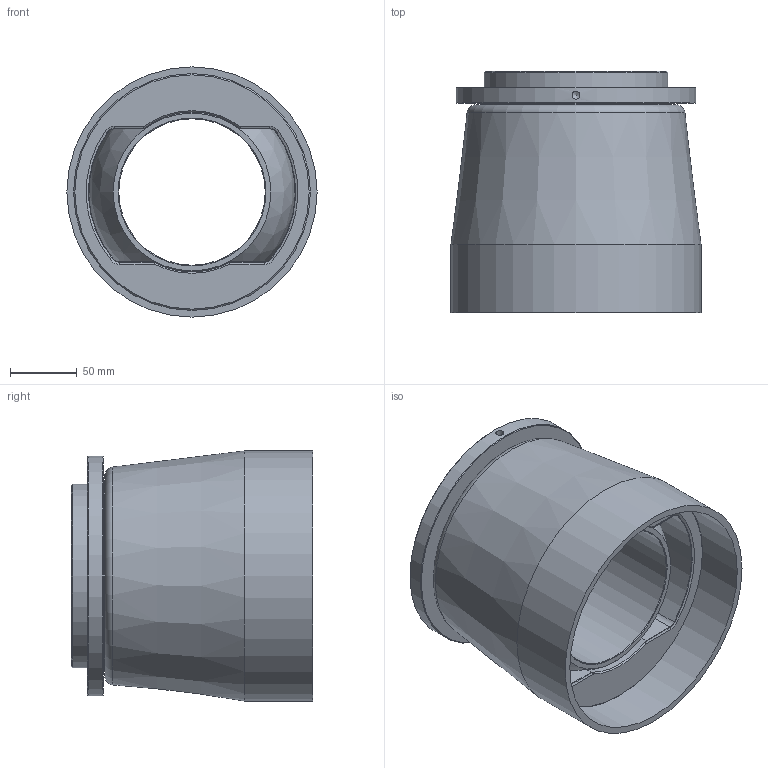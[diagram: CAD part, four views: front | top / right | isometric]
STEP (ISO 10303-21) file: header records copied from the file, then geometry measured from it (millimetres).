
FILE_DESCRIPTION(('STEP AP214'),'1');
FILE_NAME('Z:/J/Jp3/Palier/Palier-type1/3D TopSolid 2011/Serie 10.xx.xx/10.14.xx/10.14.11.step','2012-02-23T13:34:00',(' '),(' '),'Spatial InterOp 3D',' ',' ');
FILE_SCHEMA(('automotive_design'));
Length unit declared in the file: metre
Products named in the file (4): ecrou; boitier 11; rotule 11; housing
Bounding box: 187.8 x 181.04 x 187.8 mm (x, y, z)
Volume: 1974756.7 mm3; surface area: 456472.9 mm2
Topology: 4 solids, 4 shells, 75 faces, 161 edges, 96 vertices
Faces by surface type: cone 26, plane 23, cylinder 21, torus 3, sphere 2
Full cylindrical faces by diameter (mm): 6 x2, 110 x1, 120 x1, 130 x1, 138 x4, 177.8 x2, 180 x1, 187.8 x1
Entity records: 2637 total; most frequent: CARTESIAN_POINT 475, DIRECTION 342, ORIENTED_EDGE 244, AXIS2_PLACEMENT_3D 151, EDGE_CURVE 122, EDGE_LOOP 116, FACE_OUTER_BOUND 93, VERTEX_POINT 90
